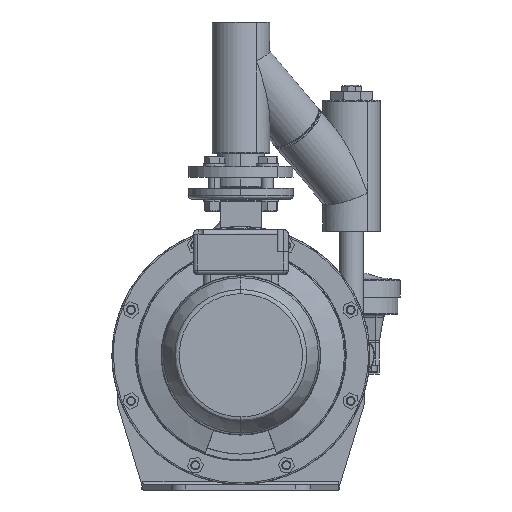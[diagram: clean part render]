
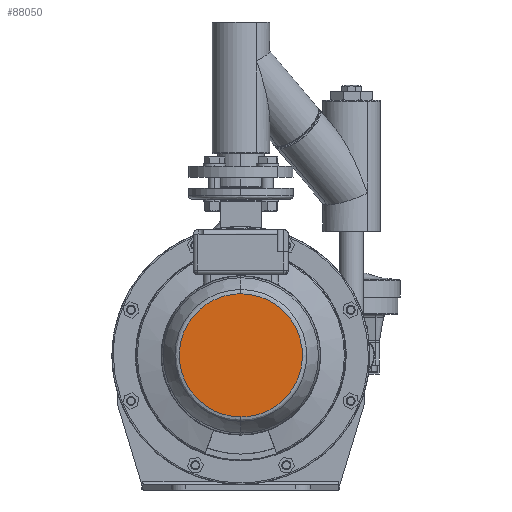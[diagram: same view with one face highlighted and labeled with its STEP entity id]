
A CAD part, front view. The second image highlights one B-rep face of the part: STEP entity #88050.
In plain terms, the highlighted planar face has unit normal (0, -1, 0).
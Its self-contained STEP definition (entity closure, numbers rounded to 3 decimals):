
#60448 = CARTESIAN_POINT ( 'NONE',  ( -154.478, -690.624, 107.337 ) ) ;
#60478 = CARTESIAN_POINT ( 'NONE',  ( -154.478, -690.624, 107.337 ) ) ;
#60479 = CARTESIAN_POINT ( 'NONE',  ( -319.153, -690.624, 107.337 ) ) ;
#60480 = CARTESIAN_POINT ( 'NONE',  ( -319.153, -690.624, -57.337 ) ) ;
#60481 = CARTESIAN_POINT ( 'NONE',  ( -154.478, -690.624, -57.337 ) ) ;
#60483 =( BOUNDED_CURVE ( )  B_SPLINE_CURVE ( 3, ( #60481, #60480, #60479, #60478 ),
 .UNSPECIFIED., .F., .T. ) 
 B_SPLINE_CURVE_WITH_KNOTS ( ( 4, 4 ),
 ( 0., 1. ),
 .UNSPECIFIED. ) 
 CURVE ( )  GEOMETRIC_REPRESENTATION_ITEM ( )  RATIONAL_B_SPLINE_CURVE ( ( 1., 0.333, 0.333, 1. ) ) 
 REPRESENTATION_ITEM ( '' )  );
#60484 = CARTESIAN_POINT ( 'NONE',  ( -154.478, -690.624, -57.337 ) ) ;
#73049 = VERTEX_POINT ( 'NONE', #60448 ) ;
#73054 = EDGE_CURVE ( 'NONE', #73061, #73049, #60483, .T. ) ;
#73061 = VERTEX_POINT ( 'NONE', #60484 ) ;
#88041 = EDGE_CURVE ( 'NONE', #73049, #73061, #116615, .T. ) ;
#88046 = EDGE_LOOP ( 'NONE', ( #88052, #88059 ) ) ;
#88050 = ADVANCED_FACE ( 'NONE', ( #116533 ), #116633, .T. ) ;
#88052 = ORIENTED_EDGE ( 'NONE', *, *, #73054, .F. ) ;
#88059 = ORIENTED_EDGE ( 'NONE', *, *, #88041, .F. ) ;
#116533 = FACE_OUTER_BOUND ( 'NONE', #88046, .T. ) ;
#116576 = DIRECTION ( 'NONE',  ( 1., 0., 0. ) ) ;
#116578 = DIRECTION ( 'NONE',  ( 0., -1., 0. ) ) ;
#116581 = CARTESIAN_POINT ( 'NONE',  ( -154.478, -690.624, 25. ) ) ;
#116598 = CARTESIAN_POINT ( 'NONE',  ( -154.478, -690.624, -57.337 ) ) ;
#116599 = CARTESIAN_POINT ( 'NONE',  ( 10.196, -690.624, -57.337 ) ) ;
#116600 = CARTESIAN_POINT ( 'NONE',  ( 10.196, -690.624, 107.337 ) ) ;
#116601 = CARTESIAN_POINT ( 'NONE',  ( -154.478, -690.624, 107.337 ) ) ;
#116609 = AXIS2_PLACEMENT_3D ( 'NONE', #116581, #116578, #116576 ) ;
#116615 =( BOUNDED_CURVE ( )  B_SPLINE_CURVE ( 3, ( #116601, #116600, #116599, #116598 ),
 .UNSPECIFIED., .F., .T. ) 
 B_SPLINE_CURVE_WITH_KNOTS ( ( 4, 4 ),
 ( 0., 1. ),
 .UNSPECIFIED. ) 
 CURVE ( )  GEOMETRIC_REPRESENTATION_ITEM ( )  RATIONAL_B_SPLINE_CURVE ( ( 1., 0.333, 0.333, 1. ) ) 
 REPRESENTATION_ITEM ( '' )  );
#116633 = PLANE ( 'NONE',  #116609 ) ;
